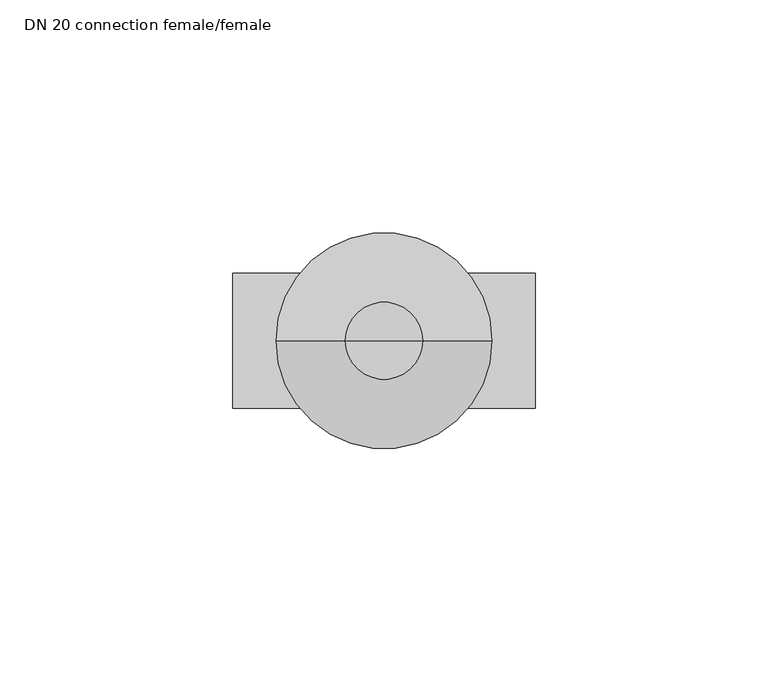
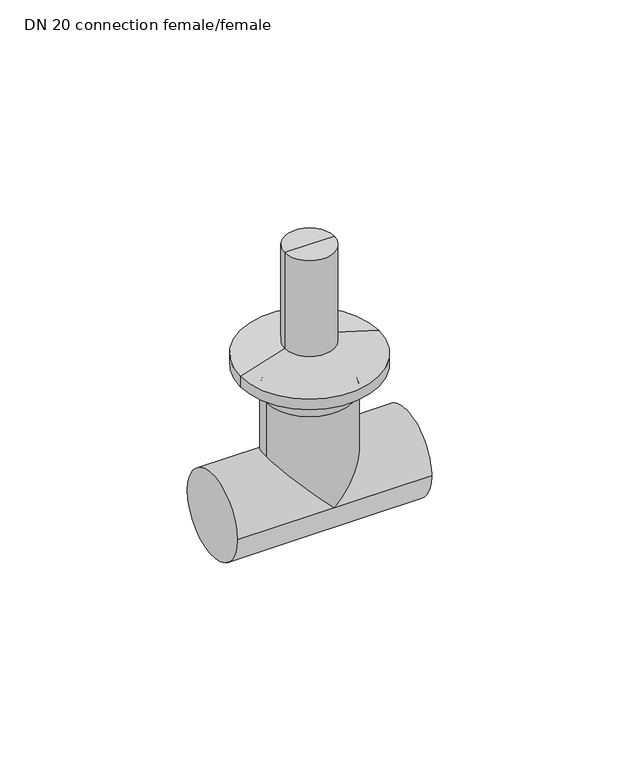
"""IFC4 building model written with IfcOpenShell, lengths in millimetres: valve geometry, PP-R_Valve_chrome cover : DN 20 connection female/female."""

from ifc_helpers import new_model, si_unit, point, frame, origin, place, context, project, spatial, polyline, circle_curve, ellipse_curve, trimmed, source, transform, mapped, element, save
from ifc_brep_helpers import plane_surface, cylinder_surface, revolved_surface, advanced_brep


def dn_20_connection_female_female_64e3fa1f(model_context):
    return source(origin(), model_context, "Body", "AdvancedBrep", [
        advanced_brep(
        [(49.5156627, 0.0, 84.5), (57.801377, 0.0, 84.5), (41.2299485, 0.0, 84.5), (26.3156627, 0.0, 42.25), (72.7156627, 0.0, 42.25), (49.5156627, 0.0, 42.25), (26.3156627, 0.0, 45.875), (72.7156627, 0.0, 45.875), (57.801377, 0.0, 50.5357143), (41.2299485, 0.0, 50.5357143)],
        [
            (0, 1),
            (1, 2, circle_curve(frame((49.5156627, 0.0, 84.5), z_axis=(0.0, 0.0, 1.0), x_axis=(1.0, 0.0, 0.0)), 8.2857143)),
            (2, 0),
            (2, 1, circle_curve(frame((49.5156627, 0.0, 84.5), z_axis=(0.0, 0.0, 1.0), x_axis=(1.0, 0.0, 0.0)), 8.2857143)),
            (3, 4, circle_curve(frame((49.5156627, 0.0, 42.25), z_axis=(0.0, 0.0, -1.0), x_axis=(1.0, 0.0, 0.0)), 23.2)),
            (4, 5),
            (5, 3),
            (4, 3, circle_curve(frame((49.5156627, 0.0, 42.25), z_axis=(0.0, 0.0, -1.0), x_axis=(1.0, 0.0, 0.0)), 23.2)),
            (6, 7, circle_curve(frame((49.5156627, 0.0, 45.875), z_axis=(0.0, 0.0, -1.0), x_axis=(1.0, 0.0, 0.0)), 23.2)),
            (7, 4),
            (3, 6),
            (7, 6, circle_curve(frame((49.5156627, 0.0, 45.875), z_axis=(0.0, 0.0, -1.0), x_axis=(1.0, 0.0, 0.0)), 23.2)),
            (1, 8),
            (8, 9, circle_curve(frame((49.5156627, 0.0, 50.5357143), z_axis=(0.0, 0.0, 1.0), x_axis=(1.0, 0.0, 0.0)), 8.2857143)),
            (9, 2),
            (9, 8, circle_curve(frame((49.5156627, 0.0, 50.5357143), z_axis=(0.0, 0.0, 1.0), x_axis=(1.0, 0.0, 0.0)), 8.2857143)),
            (8, 7),
            (6, 9),
        ],
        [
            plane_surface(frame((49.5156627, 0.0, 84.5), z_axis=(0.0, 0.0, 1.0), x_axis=(1.0, 0.0, 0.0))),
            plane_surface(frame((49.5156627, 0.0, 42.25), z_axis=(0.0, 0.0, -1.0), x_axis=(1.0, 0.0, 0.0))),
            cylinder_surface(frame((49.5156627, 0.0, 168.0), z_axis=(0.0, 0.0, 1.0), x_axis=(1.0, 0.0, 0.0)), 23.2),
            cylinder_surface(frame((49.5156627, 0.0, 168.0), z_axis=(0.0, 0.0, 1.0), x_axis=(1.0, 0.0, 0.0)), 8.2857143),
            revolved_surface(polyline([(72.7156627, 0.0, 45.875), (57.801377, 0.0, 50.5357143)]), (49.5156627, 0.0, 168.0), (0.0, 0.0, 1.0)),
        ],
        [
            (0, [[1, 2, 3]]),
            (0, [[-3, 4, -1]]),
            (1, [[5, 6, 7]]),
            (1, [[8, -7, -6]]),
            (2, [[9, 10, -5, 11]]),
            (2, [[12, -11, -8, -10]]),
            (3, [[-2, 13, 14, 15]]),
            (3, [[-4, -15, 16, -13]]),
            (4, [[-14, 17, -9, 18]]),
            (4, [[-16, -18, -12, -17]]),
        ],
    ),
        advanced_brep(
        [(49.5156627, 0.0, 42.25), (56.7656627, 0.0, 42.25), (42.2656627, 0.0, 42.25), (38.6406627, 0.0, 37.25), (42.2656627, 0.0, 37.25), (56.7656627, 0.0, 37.25), (60.3906627, 0.0, 37.25), (64.0156627, 0.0, 33.625), (35.0156627, 0.0, 33.625), (64.0156627, 0.0, 14.5), (49.5156627, 14.5, 0.0), (35.0156627, 0.0, 14.5), (49.5156627, -14.5, 0.0), (82.0156627, -14.5, 0.0), (82.0156627, 14.5, 0.0), (17.0156627, -14.5, 0.0), (17.0156627, 14.5, 0.0)],
        [
            (0, 1),
            (1, 2, circle_curve(frame((49.5156627, 0.0, 42.25), z_axis=(0.0, 0.0, 1.0), x_axis=(1.0, 0.0, 0.0)), 7.25)),
            (2, 0),
            (2, 1, circle_curve(frame((49.5156627, 0.0, 42.25), z_axis=(0.0, 0.0, 1.0), x_axis=(1.0, 0.0, 0.0)), 7.25)),
            (3, 4),
            (4, 5, circle_curve(frame((49.5156627, 0.0, 37.25), z_axis=(0.0, 0.0, -1.0), x_axis=(1.0, 0.0, 0.0)), 7.25)),
            (5, 6),
            (6, 3, circle_curve(frame((49.5156627, 0.0, 37.25), z_axis=(0.0, 0.0, 1.0), x_axis=(1.0, 0.0, 0.0)), 10.875)),
            (3, 6, circle_curve(frame((49.5156627, 0.0, 37.25), z_axis=(0.0, 0.0, 1.0), x_axis=(1.0, 0.0, 0.0)), 10.875)),
            (5, 4, circle_curve(frame((49.5156627, 0.0, 37.25), z_axis=(0.0, 0.0, -1.0), x_axis=(1.0, 0.0, 0.0)), 7.25)),
            (6, 7, circle_curve(frame((60.3906627, 0.0, 33.625), z_axis=(0.0, 1.0, 0.0), x_axis=(1.0, 0.0, 0.0)), 3.625)),
            (7, 8, circle_curve(frame((49.5156627, 0.0, 33.625), z_axis=(0.0, 0.0, 1.0), x_axis=(1.0, 0.0, 0.0)), 14.5)),
            (8, 3, circle_curve(frame((38.6406627, 0.0, 33.625), z_axis=(0.0, 1.0, 0.0), x_axis=(-1.0, 0.0, 0.0)), 3.625)),
            (8, 7, circle_curve(frame((49.5156627, 0.0, 33.625), z_axis=(0.0, 0.0, 1.0), x_axis=(1.0, 0.0, 0.0)), 14.5)),
            (4, 2),
            (1, 5),
            (7, 9),
            (9, 10, ellipse_curve(frame((49.5156627, 0.0, 0.0), z_axis=(-0.7071067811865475, 0.0, 0.7071067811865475), x_axis=(0.7071067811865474, 0.0, 0.7071067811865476)), 20.5060967, 14.5)),
            (10, 11, ellipse_curve(frame((49.5156627, 0.0, 0.0), z_axis=(0.7071067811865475, 0.0, 0.7071067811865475), x_axis=(-0.7071067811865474, 0.0, 0.7071067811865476)), 20.5060967, 14.5)),
            (11, 8),
            (11, 12, ellipse_curve(frame((49.5156627, 0.0, 0.0), z_axis=(0.7071067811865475, 0.0, 0.7071067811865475), x_axis=(-0.7071067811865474, 0.0, 0.7071067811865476)), 20.5060967, 14.5)),
            (12, 9, ellipse_curve(frame((49.5156627, 0.0, 0.0), z_axis=(-0.7071067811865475, 0.0, 0.7071067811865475), x_axis=(0.7071067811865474, 0.0, 0.7071067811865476)), 20.5060967, 14.5)),
            (13, 14, circle_curve(frame((82.0156627, 0.0, 0.0), z_axis=(1.0, 0.0, 0.0), x_axis=(0.0, 1.0, 0.0)), 14.5)),
            (14, 13, circle_curve(frame((82.0156627, 0.0, 0.0), z_axis=(1.0, 0.0, 0.0), x_axis=(0.0, 1.0, 0.0)), 14.5)),
            (15, 16, circle_curve(frame((17.0156627, 0.0, 0.0), z_axis=(-1.0, 0.0, 0.0), x_axis=(0.0, 1.0, 0.0)), 14.5)),
            (16, 15, circle_curve(frame((17.0156627, 0.0, 0.0), z_axis=(-1.0, 0.0, 0.0), x_axis=(0.0, 1.0, 0.0)), 14.5)),
            (13, 12),
            (12, 15),
            (16, 10),
            (10, 14),
        ],
        [
            plane_surface(frame((49.5156627, 0.0, 42.25), z_axis=(0.0, 0.0, 1.0), x_axis=(1.0, 0.0, 0.0))),
            plane_surface(frame((49.5156627, 0.0, 37.25), z_axis=(0.0, 0.0, 1.0), x_axis=(1.0, 0.0, 0.0))),
            revolved_surface(trimmed(ellipse_curve(frame((60.3906627, 0.0, 33.625), z_axis=(0.0, -1.0, 0.0), x_axis=(1.0, 0.0, 0.0)), 3.625, 3.625), [point((64.0156627, 0.0, 33.625))], [point((60.3906627, 0.0, 37.25))], True, "CARTESIAN"), (49.5156627, 0.0, 124.5), (0.0, 0.0, 1.0)),
            cylinder_surface(frame((49.5156627, 0.0, 124.5), z_axis=(0.0, 0.0, 1.0), x_axis=(1.0, 0.0, 0.0)), 7.25),
            cylinder_surface(frame((49.5156627, 0.0, 109.5), z_axis=(0.0, 0.0, 1.0), x_axis=(1.0, 0.0, 0.0)), 14.5),
            plane_surface(frame((82.0156627, 14.5, 0.0), z_axis=(1.0, 0.0, 0.0), x_axis=(0.0, 0.0, 1.0))),
            plane_surface(frame((17.0156627, 14.5, 0.0), z_axis=(-1.0, 0.0, 0.0), x_axis=(0.0, 0.0, -1.0))),
            cylinder_surface(frame((17.0156627, 0.0, 0.0), z_axis=(1.0, 0.0, 0.0), x_axis=(0.0, 1.0, 0.0)), 14.5),
        ],
        [
            (0, [[1, 2, 3]]),
            (0, [[-1, -3, 4]]),
            (1, [[5, 6, 7, 8]]),
            (1, [[-5, 9, -7, 10]]),
            (2, [[-8, 11, 12, 13]]),
            (2, [[-9, -13, 14, -11]]),
            (3, [[-6, 15, -2, 16]]),
            (3, [[-10, -16, -4, -15]]),
            (4, [[-12, 17, 18, 19, 20]]),
            (4, [[-14, -20, 21, 22, -17]]),
            (5, [[23, 24]]),
            (6, [[25, 26]]),
            (7, [[-23, 27, 28, -26, 29, 30]]),
            (7, [[-24, -30, -18, -22, -27]]),
            (7, [[-25, -28, -21, -19, -29]]),
        ],
    ),
    ])


if __name__ == "__main__":
    model = new_model("IFC4")
    model_context = context("Model", 3, world=origin())
    ifc_project = project(units=[si_unit("LENGTHUNIT", "METRE", prefix="MILLI")], contexts=[model_context])
    site = spatial("IfcSite", under=ifc_project)
    building = spatial("IfcBuilding", under=site)
    placement = place(None, origin())
    dn_20_connection_female_female_shape = dn_20_connection_female_female_64e3fa1f(model_context)
    element("IfcValve", 1, ObjectType="PP-R_Valve_chrome cover : DN 20 connection female/female", at=placement, inside=building, context=model_context, shape_type="MappedRepresentation", body=[
        mapped(dn_20_connection_female_female_shape, transform((0.0, 0.0, 0.0), x_axis=(1.0, 0.0, 0.0), y_axis=(0.0, 1.0, 0.0), z_axis=(0.0, 0.0, 1.0))),
    ])
    save(model, "model.ifc")
